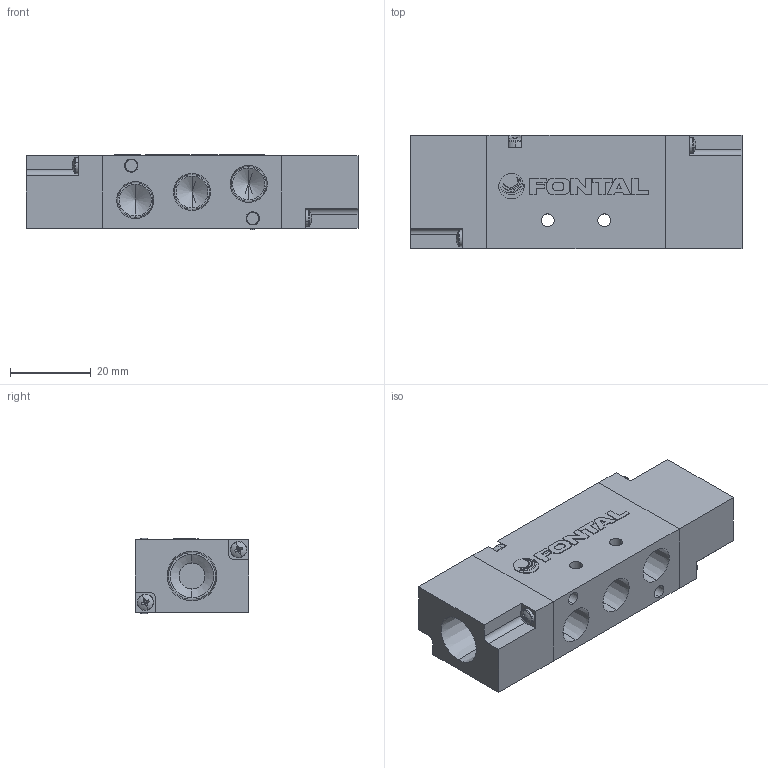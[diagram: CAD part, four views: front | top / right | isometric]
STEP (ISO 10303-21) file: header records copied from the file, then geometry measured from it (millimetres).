
FILE_DESCRIPTION (( 'STEP AP203' ), '1' );
FILE_NAME ('YCD2413-01.STEP', '2016-01-13T18:18:46', ( '' ), ( '' ), 'SwSTEP 2.0', 'SolidWorks 2014', '' );
FILE_SCHEMA (( 'CONFIG_CONTROL_DESIGN' ));
Length unit declared in the file: millimetre
Products named in the file (7): VCS2413-1; VCS2413-右側; ISO 7045 - M3 x 20; PC13-3-3413; PC13-MARK; YCD2413-01; ISO 7045 - M2 x 10
Assembly tree (9 placements, depth 3):
  YCD2413-01
    PC13-3-3413
    PC13-MARK
    ISO 7045 - M3 x 20  x2
    VCS2413-右側  x2
      VCS2413-1
      ISO 7045 - M2 x 10
Bounding box: 82 x 28 x 18.6 mm (x, y, z)
Volume: 32223.9 mm3; surface area: 15510.9 mm2
Topology: 16 solids, 16 shells, 458 faces, 1117 edges, 687 vertices
Faces by surface type: plane 238, cone 94, cylinder 82, torus 24, sphere 12, bspline 8
Entity records: 8564 total; most frequent: CARTESIAN_POINT 1492, DIRECTION 1359, ORIENTED_EDGE 1262, EDGE_CURVE 631, AXIS2_PLACEMENT_3D 504, VERTEX_POINT 405, VECTOR 351, LINE 351
